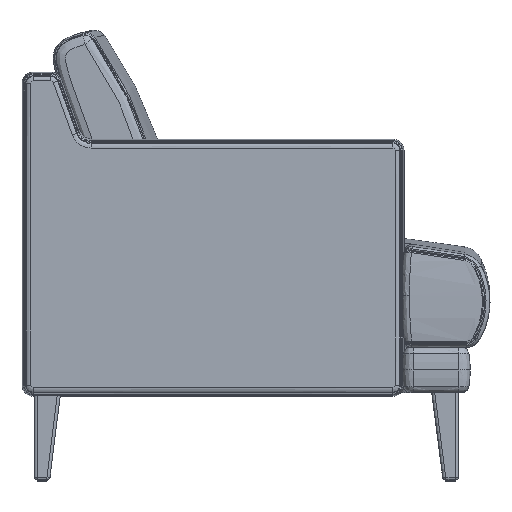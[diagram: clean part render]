
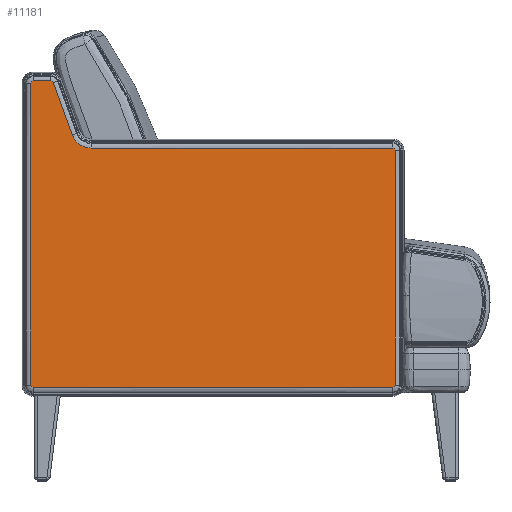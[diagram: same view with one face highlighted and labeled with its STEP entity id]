
A CAD part, left-side view. The second image highlights one B-rep face of the part: STEP entity #11181.
In plain terms, the highlighted planar face has unit normal (-1, 0, 0).
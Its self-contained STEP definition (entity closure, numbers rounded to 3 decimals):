
#574=B_SPLINE_CURVE_WITH_KNOTS('',3,(#29717,#29718,#29719,#29720,#29721,
#29722,#29723),.UNSPECIFIED.,.F.,.F.,(4,1,1,1,4),(-0.669,-0.478,
-0.287,-0.191,0.),
 .UNSPECIFIED.);
#575=B_SPLINE_CURVE_WITH_KNOTS('',3,(#29743,#29744,#29745,#29746),
 .UNSPECIFIED.,.F.,.F.,(4,4),(-39.381,0.),.UNSPECIFIED.);
#576=B_SPLINE_CURVE_WITH_KNOTS('',3,(#29777,#29778,#29779,#29780,#29781,
#29782,#29783),.UNSPECIFIED.,.F.,.F.,(4,1,1,1,4),(-0.669,-0.573,
-0.382,-0.191,0.),
 .UNSPECIFIED.);
#577=B_SPLINE_CURVE_WITH_KNOTS('',3,(#29802,#29803,#29804,#29805),
 .UNSPECIFIED.,.F.,.F.,(4,4),(-50.633,0.),.UNSPECIFIED.);
#578=B_SPLINE_CURVE_WITH_KNOTS('',3,(#29832,#29833,#29834,#29835,#29836,
#29837),.UNSPECIFIED.,.F.,.F.,(4,1,1,4),(-4.138,-2.955,
-1.773,0.),.UNSPECIFIED.);
#579=B_SPLINE_CURVE_WITH_KNOTS('',3,(#29856,#29857,#29858,#29859),
 .UNSPECIFIED.,.F.,.F.,(4,4),(-9.307,0.),.UNSPECIFIED.);
#580=B_SPLINE_CURVE_WITH_KNOTS('',3,(#29878,#29879,#29880,#29881),
 .UNSPECIFIED.,.F.,.F.,(4,4),(-60.325,0.),.UNSPECIFIED.);
#581=B_SPLINE_CURVE_WITH_KNOTS('',3,(#29909,#29910,#29911,#29912,#29913,
#29914),.UNSPECIFIED.,.F.,.F.,(4,1,1,4),(-0.52,-0.372,
-0.223,0.),.UNSPECIFIED.);
#582=B_SPLINE_CURVE_WITH_KNOTS('',3,(#29933,#29934,#29935,#29936),
 .UNSPECIFIED.,.F.,.F.,(4,4),(-2.938,0.),.UNSPECIFIED.);
#583=B_SPLINE_CURVE_WITH_KNOTS('',3,(#29967,#29968,#29969,#29970,#29971,
#29972,#29973),.UNSPECIFIED.,.F.,.F.,(4,1,1,1,4),(-0.669,-0.478,
-0.287,-0.191,0.),
 .UNSPECIFIED.);
#584=B_SPLINE_CURVE_WITH_KNOTS('',3,(#29992,#29993,#29994,#29995),
 .UNSPECIFIED.,.F.,.F.,(4,4),(-50.64,0.),.UNSPECIFIED.);
#585=B_SPLINE_CURVE_WITH_KNOTS('',3,(#30024,#30025,#30026,#30027,#30028,
#30029,#30030),.UNSPECIFIED.,.F.,.F.,(4,1,1,1,4),(-0.669,-0.573,
-0.382,-0.191,0.),
 .UNSPECIFIED.);
#1130=PLANE('',#11988);
#2232=FACE_OUTER_BOUND('',#2998,.T.);
#2998=EDGE_LOOP('',(#9021,#9022,#9023,#9024,#9025,#9026,#9027,#9028,#9029,
#9030,#9031,#9032));
#4848=VERTEX_POINT('',#29714);
#4849=VERTEX_POINT('',#29716);
#4850=VERTEX_POINT('',#29741);
#4851=VERTEX_POINT('',#29775);
#4852=VERTEX_POINT('',#29800);
#4853=VERTEX_POINT('',#29830);
#4854=VERTEX_POINT('',#29854);
#4855=VERTEX_POINT('',#29877);
#4856=VERTEX_POINT('',#29907);
#4857=VERTEX_POINT('',#29931);
#4858=VERTEX_POINT('',#29965);
#4859=VERTEX_POINT('',#29990);
#6270=EDGE_CURVE('',#4848,#4849,#574,.T.);
#6273=EDGE_CURVE('',#4850,#4848,#575,.T.);
#6275=EDGE_CURVE('',#4851,#4850,#576,.T.);
#6277=EDGE_CURVE('',#4852,#4851,#577,.T.);
#6279=EDGE_CURVE('',#4853,#4852,#578,.T.);
#6281=EDGE_CURVE('',#4854,#4853,#579,.T.);
#6282=EDGE_CURVE('',#4849,#4855,#580,.T.);
#6285=EDGE_CURVE('',#4856,#4854,#581,.T.);
#6287=EDGE_CURVE('',#4857,#4856,#582,.T.);
#6289=EDGE_CURVE('',#4858,#4857,#583,.T.);
#6291=EDGE_CURVE('',#4859,#4858,#584,.T.);
#6292=EDGE_CURVE('',#4855,#4859,#585,.T.);
#9021=ORIENTED_EDGE('',*,*,#6281,.F.);
#9022=ORIENTED_EDGE('',*,*,#6285,.F.);
#9023=ORIENTED_EDGE('',*,*,#6287,.F.);
#9024=ORIENTED_EDGE('',*,*,#6289,.F.);
#9025=ORIENTED_EDGE('',*,*,#6291,.F.);
#9026=ORIENTED_EDGE('',*,*,#6292,.F.);
#9027=ORIENTED_EDGE('',*,*,#6282,.F.);
#9028=ORIENTED_EDGE('',*,*,#6270,.F.);
#9029=ORIENTED_EDGE('',*,*,#6273,.F.);
#9030=ORIENTED_EDGE('',*,*,#6275,.F.);
#9031=ORIENTED_EDGE('',*,*,#6277,.F.);
#9032=ORIENTED_EDGE('',*,*,#6279,.F.);
#11181=ADVANCED_FACE('',(#2232),#1130,.T.);
#11988=AXIS2_PLACEMENT_3D('',#30031,#13269,#13270);
#13269=DIRECTION('center_axis',(-1.,0.,
0.));
#13270=DIRECTION('ref_axis',(0.,0.,1.));
#29714=CARTESIAN_POINT('',(-77.861,-115.056,6.427));
#29716=CARTESIAN_POINT('',(-77.861,-114.889,6.26));
#29717=CARTESIAN_POINT('Ctrl Pts',(-77.861,-115.056,
6.427));
#29718=CARTESIAN_POINT('Ctrl Pts',(-77.861,-115.056,
6.402));
#29719=CARTESIAN_POINT('Ctrl Pts',(-77.861,-115.045,
6.352));
#29720=CARTESIAN_POINT('Ctrl Pts',(-77.861,-115.005,
6.302));
#29721=CARTESIAN_POINT('Ctrl Pts',(-77.861,-114.952,6.268));
#29722=CARTESIAN_POINT('Ctrl Pts',(-77.861,-114.914,
6.26));
#29723=CARTESIAN_POINT('Ctrl Pts',(-77.861,-114.889,6.26));
#29741=CARTESIAN_POINT('',(-77.861,-115.056,21.932));
#29743=CARTESIAN_POINT('Ctrl Pts',(-77.861,-115.056,
21.932));
#29744=CARTESIAN_POINT('Ctrl Pts',(-77.861,-115.056,
16.764));
#29745=CARTESIAN_POINT('Ctrl Pts',(-77.861,-115.056,
11.595));
#29746=CARTESIAN_POINT('Ctrl Pts',(-77.861,-115.056,
6.427));
#29775=CARTESIAN_POINT('',(-77.861,-114.889,22.099));
#29777=CARTESIAN_POINT('Ctrl Pts',(-77.861,-114.889,22.099));
#29778=CARTESIAN_POINT('Ctrl Pts',(-77.861,-114.901,
22.099));
#29779=CARTESIAN_POINT('Ctrl Pts',(-77.861,-114.939,
22.095));
#29780=CARTESIAN_POINT('Ctrl Pts',(-77.861,-114.997,
22.067));
#29781=CARTESIAN_POINT('Ctrl Pts',(-77.861,-115.045,
22.007));
#29782=CARTESIAN_POINT('Ctrl Pts',(-77.861,-115.056,
21.957));
#29783=CARTESIAN_POINT('Ctrl Pts',(-77.861,-115.056,
21.932));
#29800=CARTESIAN_POINT('',(-77.861,-94.955,22.099));
#29802=CARTESIAN_POINT('Ctrl Pts',(-77.861,-94.955,
22.099));
#29803=CARTESIAN_POINT('Ctrl Pts',(-77.861,-101.6,22.099));
#29804=CARTESIAN_POINT('Ctrl Pts',(-77.861,-108.244,
22.099));
#29805=CARTESIAN_POINT('Ctrl Pts',(-77.861,-114.889,22.099));
#29830=CARTESIAN_POINT('',(-77.861,-93.702,22.977));
#29832=CARTESIAN_POINT('Ctrl Pts',(-77.861,-93.702,
22.977));
#29833=CARTESIAN_POINT('Ctrl Pts',(-77.861,-93.755,
22.831));
#29834=CARTESIAN_POINT('Ctrl Pts',(-77.861,-93.913,
22.559));
#29835=CARTESIAN_POINT('Ctrl Pts',(-77.861,-94.335,
22.204));
#29836=CARTESIAN_POINT('Ctrl Pts',(-77.861,-94.722,
22.099));
#29837=CARTESIAN_POINT('Ctrl Pts',(-77.861,-94.955,
22.099));
#29854=CARTESIAN_POINT('',(-77.861,-92.452,26.421));
#29856=CARTESIAN_POINT('Ctrl Pts',(-77.861,-92.452,
26.421));
#29857=CARTESIAN_POINT('Ctrl Pts',(-77.861,-92.869,25.273));
#29858=CARTESIAN_POINT('Ctrl Pts',(-77.861,-93.286,
24.125));
#29859=CARTESIAN_POINT('Ctrl Pts',(-77.861,-93.702,22.977));
#29877=CARTESIAN_POINT('',(-77.861,-91.139,6.26));
#29878=CARTESIAN_POINT('Ctrl Pts',(-77.861,-114.889,6.26));
#29879=CARTESIAN_POINT('Ctrl Pts',(-77.861,-106.972,6.26));
#29880=CARTESIAN_POINT('Ctrl Pts',(-77.861,-99.056,6.26));
#29881=CARTESIAN_POINT('Ctrl Pts',(-77.861,-91.139,6.26));
#29907=CARTESIAN_POINT('',(-77.861,-92.295,26.532));
#29909=CARTESIAN_POINT('Ctrl Pts',(-77.861,-92.295,
26.532));
#29910=CARTESIAN_POINT('Ctrl Pts',(-77.861,-92.314,
26.532));
#29911=CARTESIAN_POINT('Ctrl Pts',(-77.861,-92.353,
26.525));
#29912=CARTESIAN_POINT('Ctrl Pts',(-77.861,-92.413,
26.49));
#29913=CARTESIAN_POINT('Ctrl Pts',(-77.861,-92.442,26.449));
#29914=CARTESIAN_POINT('Ctrl Pts',(-77.861,-92.452,
26.421));
#29931=CARTESIAN_POINT('',(-77.861,-91.138,26.532));
#29933=CARTESIAN_POINT('Ctrl Pts',(-77.861,-91.138,
26.532));
#29934=CARTESIAN_POINT('Ctrl Pts',(-77.861,-91.524,26.532));
#29935=CARTESIAN_POINT('Ctrl Pts',(-77.861,-91.909,
26.532));
#29936=CARTESIAN_POINT('Ctrl Pts',(-77.861,-92.295,
26.532));
#29965=CARTESIAN_POINT('',(-77.861,-90.971,26.364));
#29967=CARTESIAN_POINT('Ctrl Pts',(-77.861,-90.971,
26.364));
#29968=CARTESIAN_POINT('Ctrl Pts',(-77.861,-90.971,
26.389));
#29969=CARTESIAN_POINT('Ctrl Pts',(-77.861,-90.982,
26.439));
#29970=CARTESIAN_POINT('Ctrl Pts',(-77.861,-91.022,
26.49));
#29971=CARTESIAN_POINT('Ctrl Pts',(-77.861,-91.075,
26.523));
#29972=CARTESIAN_POINT('Ctrl Pts',(-77.861,-91.113,
26.532));
#29973=CARTESIAN_POINT('Ctrl Pts',(-77.861,-91.138,
26.532));
#29990=CARTESIAN_POINT('',(-77.861,-90.971,6.427));
#29992=CARTESIAN_POINT('Ctrl Pts',(-77.861,-90.971,
6.427));
#29993=CARTESIAN_POINT('Ctrl Pts',(-77.861,-90.971,
13.073));
#29994=CARTESIAN_POINT('Ctrl Pts',(-77.861,-90.971,
19.719));
#29995=CARTESIAN_POINT('Ctrl Pts',(-77.861,-90.971,
26.364));
#30024=CARTESIAN_POINT('Ctrl Pts',(-77.861,-91.139,6.26));
#30025=CARTESIAN_POINT('Ctrl Pts',(-77.861,-91.126,
6.26));
#30026=CARTESIAN_POINT('Ctrl Pts',(-77.861,-91.089,
6.264));
#30027=CARTESIAN_POINT('Ctrl Pts',(-77.861,-91.031,6.292));
#30028=CARTESIAN_POINT('Ctrl Pts',(-77.861,-90.983,
6.352));
#30029=CARTESIAN_POINT('Ctrl Pts',(-77.861,-90.971,
6.402));
#30030=CARTESIAN_POINT('Ctrl Pts',(-77.861,-90.971,
6.427));
#30031=CARTESIAN_POINT('Origin',(-77.861,-103.013,16.396));
